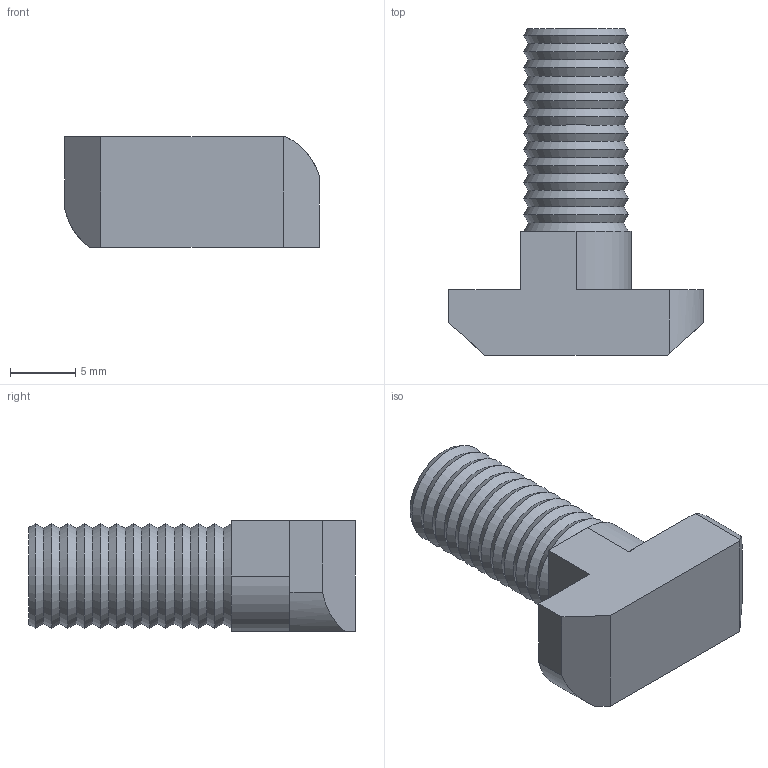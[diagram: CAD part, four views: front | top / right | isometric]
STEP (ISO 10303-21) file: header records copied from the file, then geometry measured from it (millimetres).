
FILE_DESCRIPTION((''),'2;1');
FILE_NAME('E:\catalogue and flyer\Profile catalogue 2015\Accessories JE info\Accessories-JE step file 31MAr16\JE-HH8x20-10.stp','2016-03-31T16:00:20',('h029'),(''),'Autodesk Inventor 11','Autodesk Inventor 11','');
FILE_SCHEMA(('AUTOMOTIVE_DESIGN { 1 0 10303 214 1 1 1 1 }'));
Length unit declared in the file: millimetre
Products named in the file (1): JE-HH8x20-10
Bounding box: 19.5 x 25 x 8.5 mm (x, y, z)
Volume: 1756.8 mm3; surface area: 1114.4 mm2
Topology: 1 solids, 1 shells, 42 faces, 95 edges, 56 vertices
Faces by surface type: cone 25, plane 13, cylinder 4
Entity records: 1037 total; most frequent: DIRECTION 188, CARTESIAN_POINT 165, ORIENTED_EDGE 136, AXIS2_PLACEMENT_3D 77, EDGE_CURVE 68, EDGE_LOOP 68, VERTEX_POINT 54, FACE_OUTER_BOUND 42
